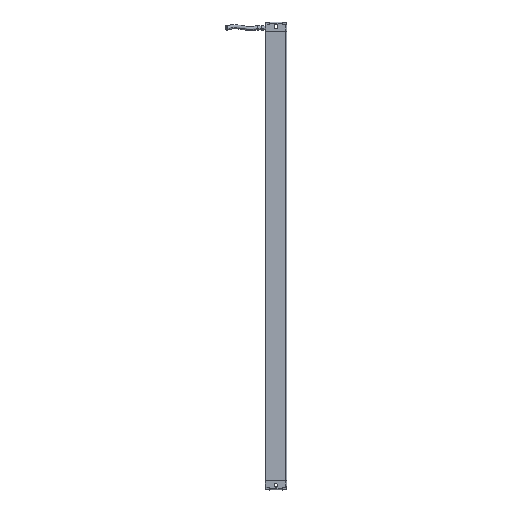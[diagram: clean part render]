
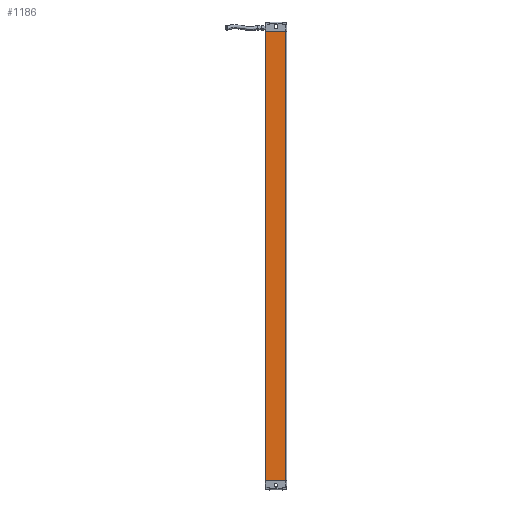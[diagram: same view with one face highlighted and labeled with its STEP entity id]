
A CAD part, front view. The second image highlights one B-rep face of the part: STEP entity #1186.
In plain terms, the highlighted planar face has unit normal (-0.001, -1, 0).
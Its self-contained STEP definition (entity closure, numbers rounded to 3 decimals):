
#504=PLANE('',#15157);
#1186=ADVANCED_FACE('',(#2238),#504,.T.);
#2238=FACE_OUTER_BOUND('',#3008,.T.);
#3008=EDGE_LOOP('',(#8066,#8067,#8068,#8069));
#3933=LINE('',#22701,#5148);
#3990=LINE('',#22899,#5205);
#3991=LINE('',#22901,#5206);
#3992=LINE('',#22903,#5207);
#5148=VECTOR('',#17334,1.);
#5205=VECTOR('',#17491,1.);
#5206=VECTOR('',#17494,1.);
#5207=VECTOR('',#17495,1.);
#8066=ORIENTED_EDGE('',*,*,#12967,.T.);
#8067=ORIENTED_EDGE('',*,*,#12968,.T.);
#8068=ORIENTED_EDGE('',*,*,#12969,.T.);
#8069=ORIENTED_EDGE('',*,*,#12868,.F.);
#11156=VERTEX_POINT('',#22700);
#11157=VERTEX_POINT('',#22702);
#11247=VERTEX_POINT('',#22898);
#11248=VERTEX_POINT('',#22902);
#12868=EDGE_CURVE('',#11156,#11157,#3933,.T.);
#12967=EDGE_CURVE('',#11156,#11247,#3990,.T.);
#12968=EDGE_CURVE('',#11247,#11248,#3991,.T.);
#12969=EDGE_CURVE('',#11248,#11157,#3992,.T.);
#15157=AXIS2_PLACEMENT_3D('',#22904,#17496,#17497);
#17334=DIRECTION('',(1.,-0.001,0.));
#17491=DIRECTION('',(0.,0.,-1.));
#17494=DIRECTION('',(1.,-0.001,0.));
#17495=DIRECTION('',(0.,0.,1.));
#17496=DIRECTION('',(-0.001,-1.,0.));
#17497=DIRECTION('',(1.,-0.001,0.));
#22700=CARTESIAN_POINT('',(53.048,-142.376,760.376));
#22701=CARTESIAN_POINT('',(53.048,-142.376,760.376));
#22702=CARTESIAN_POINT('',(79.028,-142.395,760.376));
#22898=CARTESIAN_POINT('',(53.048,-142.376,178.376));
#22899=CARTESIAN_POINT('',(53.048,-142.376,543.376));
#22901=CARTESIAN_POINT('',(79.028,-142.395,178.376));
#22902=CARTESIAN_POINT('',(79.028,-142.395,178.376));
#22903=CARTESIAN_POINT('',(79.028,-142.395,198.376));
#22904=CARTESIAN_POINT('',(79.028,-142.395,543.376));
